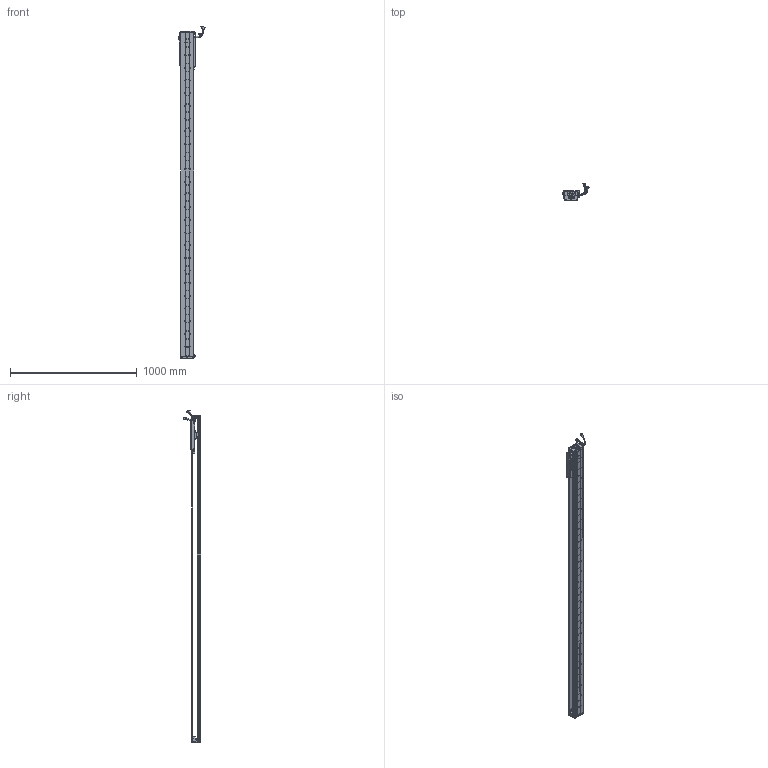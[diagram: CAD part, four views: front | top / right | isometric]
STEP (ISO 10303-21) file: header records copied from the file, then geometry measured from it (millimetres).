
FILE_DESCRIPTION (( 'STEP AP203' ), '1' );
FILE_NAME ('Z3-RY100D-1-L500-B-K.SLDASM_2250.step', '2021-05-17T02:52:03', ( '盈信电脑' ), ( '东莞市道滘镇水果街19号' ), 'SwSTEP 2.0', 'SolidWorks 2016', '' );
FILE_SCHEMA (( 'CONFIG_CONTROL_DESIGN' ));
Length unit declared in the file: millimetre
Products named in the file (36): LABEL; HARNESS-Part-1; SCALE; COVER; 100-Z-臏賑輸盄裔(21遴); SEAL-Part-1; SCREW-M1.7-1; SCALE-Part-2; Z-RY100D詩湍狟揤裔; Z3-RY100D-1-L500-B-K.SLDASM_2250; HOLDER0; LABEL-Part-1; 覜茼ん672; PSLH080_PSLF2; SCALE-Part-1; SCREW-M1.6; Z-RY100D覜茼んえ; SEAL; SCREW-M1.6-2; 140雄赽晤鎢ん堤盄; SCREW-M1.6-1; Z-100詩湍傷裔啣; 140蚥薯蝶輸; Z3-RY100-L500詩湍90mm遵_2250; SHIELDPLATE; PBU_SHEET; Z-RY100D詩湍奻揤裔; SCREW-M1.7; SCREW-M1.6-3; 080黍杅芛假蚾釱21遴; HARNESS-Part-2; COVER-Part-1; 榋妏寠巭燃_暯_M2_2; HARNESS; Z3-RY100铝滑块（21款）; Z3-RY100D-500-倰第菁釱_2250
Assembly tree (43 placements, depth 4):
  Z3-RY100D-1-L500-B-K.SLDASM_2250
    Z3-RY100D-500-倰第菁釱_2250
    Z3-RY100铝滑块（21款）
    PSLH080_PSLF2
      SCALE
        SCALE-Part-1
        SCALE-Part-2
      HARNESS
        HARNESS-Part-1
        HARNESS-Part-2
      LABEL
        LABEL-Part-1
      COVER
        COVER-Part-1
      SEAL
        SEAL-Part-1
      榋妏寠巭燃_暯_M2_2
      SHIELDPLATE
      SCREW-M1.7
      SCREW-M1.7-1
      PBU_SHEET
      SCREW-M1.6
      SCREW-M1.6-1
      SCREW-M1.6-2
      SCREW-M1.6-3
      HOLDER0
    080黍杅芛假蚾釱21遴
    Z-100詩湍傷裔啣  x2
    140蚥薯蝶輸  x2
    覜茼ん672  x3
    Z-RY100D覜茼んえ  x3
    100-Z-臏賑輸盄裔(21遴)
    140雄赽晤鎢ん堤盄
    Z3-RY100-L500詩湍90mm遵_2250
    Z-RY100D詩湍狟揤裔  x2
    Z-RY100D詩湍奻揤裔  x2
Bounding box: 205.79 x 136.11 x 2620.43 mm (x, y, z)
Volume: 4816765.4 mm3; surface area: 1894685.4 mm2
Topology: 38 solids, 38 shells, 2985 faces, 8131 edges, 5188 vertices
Faces by surface type: cylinder 1458, plane 1179, cone 226, torus 69, bspline 53
Entity records: 86157 total; most frequent: CARTESIAN_POINT 18041, DIRECTION 13885, ORIENTED_EDGE 13142, EDGE_CURVE 6571, AXIS2_PLACEMENT_3D 5216, VERTEX_POINT 4256, VECTOR 3453, LINE 3453
